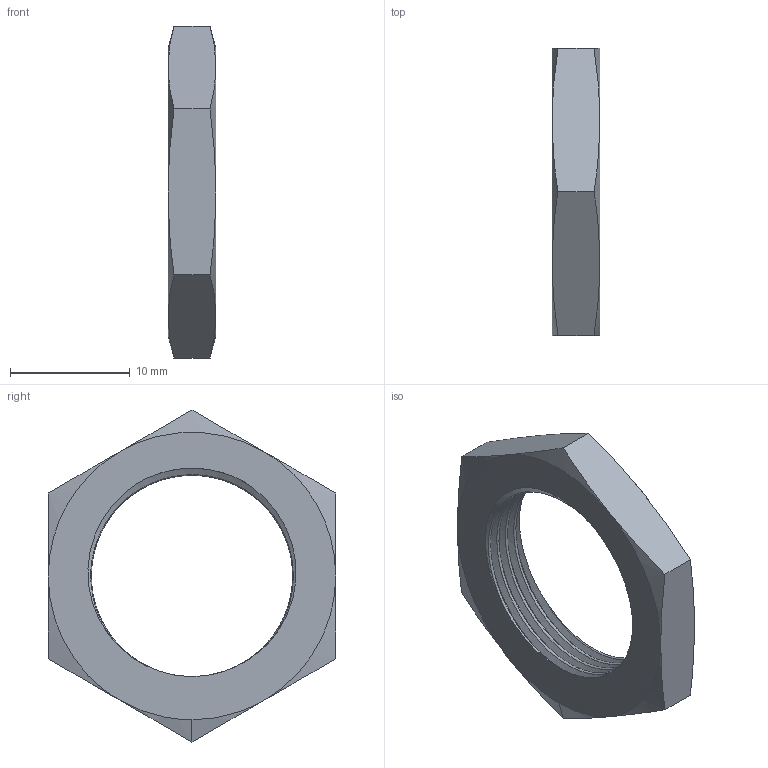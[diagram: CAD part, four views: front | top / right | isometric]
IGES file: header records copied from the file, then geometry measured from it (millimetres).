
Global section: file name: D:\TMP\DSD-0124.igs; preprocessor: I-DEAS 3D IGES Translator 11; date: 20060608.155516; units: millimetre
Bounding box: 4 x 24 x 27.71 mm (x, y, z)
Volume: 1030.8 mm3; surface area: 1195.1 mm2
Topology: 1 solids, 1 shells, 30 faces, 70 edges, 43 vertices
Faces by surface type: bspline 30
